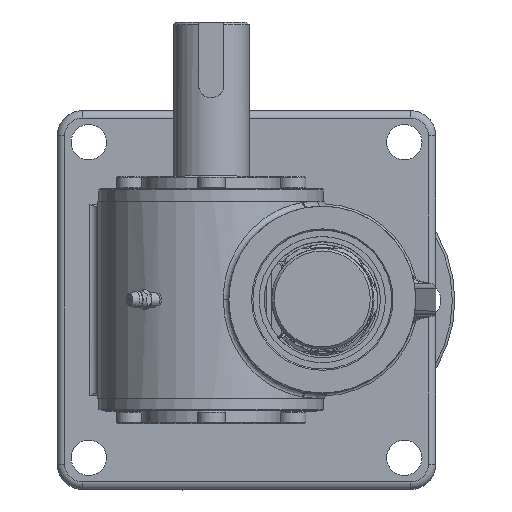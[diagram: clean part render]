
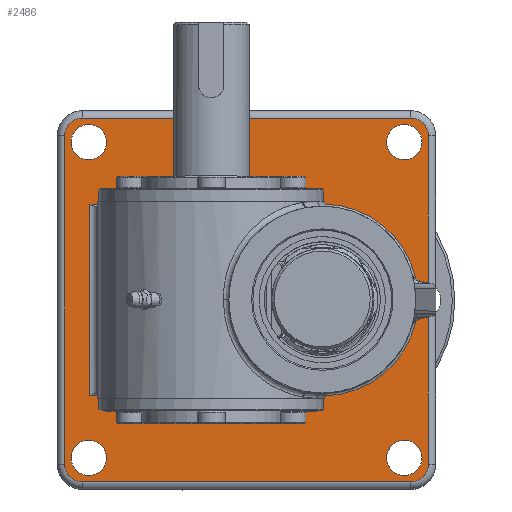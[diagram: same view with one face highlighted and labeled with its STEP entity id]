
A CAD part, top view. The second image highlights one B-rep face of the part: STEP entity #2486.
In plain terms, the highlighted planar face has unit normal (0, 0, 1).
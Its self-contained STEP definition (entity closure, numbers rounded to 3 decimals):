
#2486=ADVANCED_FACE('',(#5967,#5968,#5969,#5970,#5971),#5972,.T.);
#5967=FACE_OUTER_BOUND('',#13662,.T.);
#5968=FACE_BOUND('',#13663,.T.);
#5969=FACE_BOUND('',#13664,.T.);
#5970=FACE_BOUND('',#13665,.T.);
#5971=FACE_BOUND('',#13666,.T.);
#5972=PLANE('',#13667);
#13662=EDGE_LOOP('',(#23565,#23566,#23567,#23568,#23569,#23570,#23571,#23572,#23573,#23574,#23575,#23576,#23577,#23578,#23579,#23580,#23581,#23582,#23583,#23584,#23585,#23586,#23587,#23588));
#13663=EDGE_LOOP('',(#23589));
#13664=EDGE_LOOP('',(#23590));
#13665=EDGE_LOOP('',(#23591));
#13666=EDGE_LOOP('',(#23592));
#13667=AXIS2_PLACEMENT_3D('',#23593,#23594,#23595);
#23565=ORIENTED_EDGE('',*,*,#38837,.T.);
#23566=ORIENTED_EDGE('',*,*,#39019,.F.);
#23567=ORIENTED_EDGE('',*,*,#38614,.T.);
#23568=ORIENTED_EDGE('',*,*,#38619,.T.);
#23569=ORIENTED_EDGE('',*,*,#38812,.F.);
#23570=ORIENTED_EDGE('',*,*,#39045,.F.);
#23571=ORIENTED_EDGE('',*,*,#38682,.T.);
#23572=ORIENTED_EDGE('',*,*,#39033,.T.);
#23573=ORIENTED_EDGE('',*,*,#38202,.T.);
#23574=ORIENTED_EDGE('',*,*,#38958,.T.);
#23575=ORIENTED_EDGE('',*,*,#38308,.T.);
#23576=ORIENTED_EDGE('',*,*,#38126,.T.);
#23577=ORIENTED_EDGE('',*,*,#38788,.T.);
#23578=ORIENTED_EDGE('',*,*,#38953,.T.);
#23579=ORIENTED_EDGE('',*,*,#38321,.T.);
#23580=ORIENTED_EDGE('',*,*,#39129,.F.);
#23581=ORIENTED_EDGE('',*,*,#39065,.F.);
#23582=ORIENTED_EDGE('',*,*,#38178,.T.);
#23583=ORIENTED_EDGE('',*,*,#38177,.T.);
#23584=ORIENTED_EDGE('',*,*,#38286,.F.);
#23585=ORIENTED_EDGE('',*,*,#38281,.T.);
#23586=ORIENTED_EDGE('',*,*,#38975,.F.);
#23587=ORIENTED_EDGE('',*,*,#38338,.T.);
#23588=ORIENTED_EDGE('',*,*,#38335,.F.);
#23589=ORIENTED_EDGE('',*,*,#39089,.F.);
#23590=ORIENTED_EDGE('',*,*,#39130,.F.);
#23591=ORIENTED_EDGE('',*,*,#38381,.F.);
#23592=ORIENTED_EDGE('',*,*,#38319,.F.);
#23593=CARTESIAN_POINT('',(0.0,0.0,20.0));
#23594=DIRECTION('',(0.,0.,1.0));
#23595=DIRECTION('',(1.0,0.,0.));
#38126=EDGE_CURVE('',#45169,#45174,#45176,.T.);
#38177=EDGE_CURVE('',#45264,#45270,#45272,.T.);
#38178=EDGE_CURVE('',#45273,#45264,#45274,.T.);
#38202=EDGE_CURVE('',#45311,#45316,#45318,.T.);
#38281=EDGE_CURVE('',#45468,#45466,#45469,.T.);
#38286=EDGE_CURVE('',#45468,#45270,#45475,.T.);
#38308=EDGE_CURVE('',#45514,#45169,#45518,.T.);
#38319=EDGE_CURVE('',#45537,#45537,#45538,.T.);
#38321=EDGE_CURVE('',#45541,#45542,#45543,.T.);
#38335=EDGE_CURVE('',#45566,#45568,#45569,.T.);
#38338=EDGE_CURVE('',#45573,#45568,#45574,.T.);
#38381=EDGE_CURVE('',#45647,#45647,#45648,.T.);
#38614=EDGE_CURVE('',#46067,#46065,#46068,.T.);
#38619=EDGE_CURVE('',#46065,#46076,#46077,.T.);
#38682=EDGE_CURVE('',#46174,#46172,#46175,.T.);
#38788=EDGE_CURVE('',#45174,#46342,#46344,.T.);
#38812=EDGE_CURVE('',#46377,#46076,#46379,.T.);
#38837=EDGE_CURVE('',#45566,#46414,#46416,.T.);
#38953=EDGE_CURVE('',#46342,#45541,#46572,.T.);
#38958=EDGE_CURVE('',#45316,#45514,#46578,.T.);
#38975=EDGE_CURVE('',#45573,#45466,#46601,.T.);
#39019=EDGE_CURVE('',#46067,#46414,#46657,.T.);
#39033=EDGE_CURVE('',#46172,#45311,#46673,.T.);
#39045=EDGE_CURVE('',#46174,#46377,#46687,.T.);
#39065=EDGE_CURVE('',#45273,#46711,#46712,.T.);
#39089=EDGE_CURVE('',#46742,#46742,#46743,.T.);
#39129=EDGE_CURVE('',#46711,#45542,#46787,.T.);
#39130=EDGE_CURVE('',#46788,#46788,#46789,.T.);
#45169=VERTEX_POINT('',#57577);
#45174=VERTEX_POINT('',#57582);
#45176=CIRCLE('',#57584,7.0);
#45264=VERTEX_POINT('',#57924);
#45270=VERTEX_POINT('',#57953);
#45272=LINE('',#57964,#57965);
#45273=VERTEX_POINT('',#57966);
#45274=CIRCLE('',#57967,38.0);
#45311=VERTEX_POINT('',#58133);
#45316=VERTEX_POINT('',#58139);
#45318=LINE('',#58141,#58142);
#45466=VERTEX_POINT('',#58570);
#45468=VERTEX_POINT('',#58581);
#45469=LINE('',#58582,#58583);
#45475=LINE('',#58603,#58604);
#45514=VERTEX_POINT('',#58647);
#45518=LINE('',#58652,#58653);
#45537=VERTEX_POINT('',#58676);
#45538=CIRCLE('',#58677,7.0);
#45541=VERTEX_POINT('',#58680);
#45542=VERTEX_POINT('',#58681);
#45543=LINE('',#58682,#58683);
#45566=VERTEX_POINT('',#58785);
#45568=VERTEX_POINT('',#58796);
#45569=LINE('',#58797,#58798);
#45573=VERTEX_POINT('',#58812);
#45574=LINE('',#58813,#58814);
#45647=VERTEX_POINT('',#59132);
#45648=CIRCLE('',#59133,7.0);
#46065=VERTEX_POINT('',#59755);
#46067=VERTEX_POINT('',#59766);
#46068=LINE('',#59767,#59768);
#46076=VERTEX_POINT('',#59807);
#46077=CIRCLE('',#59808,38.0);
#46172=VERTEX_POINT('',#59946);
#46174=VERTEX_POINT('',#59948);
#46175=LINE('',#59949,#59950);
#46342=VERTEX_POINT('',#60345);
#46344=LINE('',#60347,#60348);
#46377=VERTEX_POINT('',#60406);
#46379=CIRCLE('',#60409,5.0);
#46414=VERTEX_POINT('',#60552);
#46416=LINE('',#60563,#60564);
#46572=CIRCLE('',#61006,7.0);
#46578=CIRCLE('',#61020,7.0);
#46601=LINE('',#61061,#61062);
#46657=LINE('',#61152,#61153);
#46673=CIRCLE('',#61184,7.0);
#46687=LINE('',#61232,#61233);
#46711=VERTEX_POINT('',#61303);
#46712=CIRCLE('',#61304,5.0);
#46742=VERTEX_POINT('',#61351);
#46743=CIRCLE('',#61352,7.0);
#46787=LINE('',#61459,#61460);
#46788=VERTEX_POINT('',#61461);
#46789=CIRCLE('',#61462,7.0);
#57577=CARTESIAN_POINT('',(-72.0,-65.0,20.0));
#57582=CARTESIAN_POINT('',(-65.,-72.0,20.0));
#57584=AXIS2_PLACEMENT_3D('',#74670,#74671,#74672);
#57924=CARTESIAN_POINT('',(19.466,-36.511,20.0));
#57953=CARTESIAN_POINT('',(19.466,-40.0,20.0));
#57964=CARTESIAN_POINT('',(19.466,0.,20.0));
#57965=VECTOR('',#74734,1.0);
#57966=CARTESIAN_POINT('',(67.08,-8.311,20.0));
#57967=AXIS2_PLACEMENT_3D('',#74735,#74736,#74737);
#58133=CARTESIAN_POINT('',(65.,72.0,20.0));
#58139=CARTESIAN_POINT('',(-65.0,72.0,20.0));
#58141=CARTESIAN_POINT('',(0.0,72.0,20.0));
#58142=VECTOR('',#74769,1.0);
#58570=CARTESIAN_POINT('',(-47.466,-38.0,20.0));
#58581=CARTESIAN_POINT('',(-47.466,-40.0,20.0));
#58582=CARTESIAN_POINT('',(-47.466,38.0,20.0));
#58583=VECTOR('',#74929,1.0);
#58603=CARTESIAN_POINT('',(0.0,-40.0,20.0));
#58604=VECTOR('',#74937,1.0);
#58647=CARTESIAN_POINT('',(-72.0,65.,20.0));
#58652=CARTESIAN_POINT('',(-72.0,0.0,20.0));
#58653=VECTOR('',#74991,1.0);
#58676=CARTESIAN_POINT('',(-55.5,62.5,20.0));
#58677=AXIS2_PLACEMENT_3D('',#75014,#75015,#75016);
#58680=CARTESIAN_POINT('',(72.0,-65.,20.0));
#58681=CARTESIAN_POINT('',(72.0,-6.683,20.0));
#58682=CARTESIAN_POINT('',(72.0,0.,20.0));
#58683=VECTOR('',#75020,1.0);
#58785=CARTESIAN_POINT('',(-47.466,38.0,20.0));
#58796=CARTESIAN_POINT('',(-62.0,38.0,20.0));
#58797=CARTESIAN_POINT('',(-54.733,38.0,20.0));
#58798=VECTOR('',#75030,1.0);
#58812=CARTESIAN_POINT('',(-62.0,-38.0,20.0));
#58813=CARTESIAN_POINT('',(-62.0,0.0,20.0));
#58814=VECTOR('',#75032,1.0);
#59132=CARTESIAN_POINT('',(69.5,62.5,20.0));
#59133=AXIS2_PLACEMENT_3D('',#75082,#75083,#75084);
#59755=CARTESIAN_POINT('',(19.466,36.511,20.0));
#59766=CARTESIAN_POINT('',(19.466,40.0,20.0));
#59767=CARTESIAN_POINT('',(19.466,0.,20.0));
#59768=VECTOR('',#75583,1.0);
#59807=CARTESIAN_POINT('',(67.08,8.311,20.0));
#59808=AXIS2_PLACEMENT_3D('',#75588,#75589,#75590);
#59946=CARTESIAN_POINT('',(72.0,65.0,20.0));
#59948=CARTESIAN_POINT('',(72.0,6.683,20.0));
#59949=CARTESIAN_POINT('',(72.0,0.,20.0));
#59950=VECTOR('',#75723,1.0);
#60345=CARTESIAN_POINT('',(65.0,-72.0,20.0));
#60347=CARTESIAN_POINT('',(0.0,-72.0,20.0));
#60348=VECTOR('',#75902,1.0);
#60406=CARTESIAN_POINT('',(69.053,7.364,20.0));
#60409=AXIS2_PLACEMENT_3D('',#75943,#75944,#75945);
#60552=CARTESIAN_POINT('',(-47.466,40.0,20.0));
#60563=CARTESIAN_POINT('',(-47.466,38.0,20.0));
#60564=VECTOR('',#75994,1.0);
#61006=AXIS2_PLACEMENT_3D('',#76202,#76203,#76204);
#61020=AXIS2_PLACEMENT_3D('',#76214,#76215,#76216);
#61061=CARTESIAN_POINT('',(-54.733,-38.0,20.0));
#61062=VECTOR('',#76245,1.0);
#61152=CARTESIAN_POINT('',(0.0,40.0,20.0));
#61153=VECTOR('',#76333,1.0);
#61184=AXIS2_PLACEMENT_3D('',#76358,#76359,#76360);
#61232=CARTESIAN_POINT('',(70.527,7.024,20.0));
#61233=VECTOR('',#76384,1.0);
#61303=CARTESIAN_POINT('',(69.053,-7.364,20.0));
#61304=AXIS2_PLACEMENT_3D('',#76416,#76417,#76418);
#61351=CARTESIAN_POINT('',(69.5,-62.5,20.0));
#61352=AXIS2_PLACEMENT_3D('',#76473,#76474,#76475);
#61459=CARTESIAN_POINT('',(70.527,-7.024,20.0));
#61460=VECTOR('',#76545,1.0);
#61461=CARTESIAN_POINT('',(-55.5,-62.5,20.0));
#61462=AXIS2_PLACEMENT_3D('',#76546,#76547,#76548);
#74670=CARTESIAN_POINT('',(-65.0,-65.0,20.0));
#74671=DIRECTION('',(0.,0.,1.0));
#74672=DIRECTION('',(1.0,0.,0.));
#74734=DIRECTION('',(0.0,-1.0,0.0));
#74735=CARTESIAN_POINT('',(30.0,0.0,20.0));
#74736=DIRECTION('',(0.,0.,-1.0));
#74737=DIRECTION('',(1.0,0.,0.));
#74769=DIRECTION('',(-1.0,0.0,0.));
#74929=DIRECTION('',(0.0,1.0,0.0));
#74937=DIRECTION('',(1.0,0.0,0.0));
#74991=DIRECTION('',(0.0,-1.0,0.));
#75014=CARTESIAN_POINT('',(-62.5,62.5,20.0));
#75015=DIRECTION('',(0.,0.,1.0));
#75016=DIRECTION('',(1.0,0.,0.));
#75020=DIRECTION('',(0.0,1.0,0.));
#75030=DIRECTION('',(-1.0,0.0,0.0));
#75032=DIRECTION('',(0.0,1.0,0.));
#75082=CARTESIAN_POINT('',(62.5,62.5,20.0));
#75083=DIRECTION('',(0.,0.,1.0));
#75084=DIRECTION('',(1.0,0.,0.));
#75583=DIRECTION('',(0.0,-1.0,0.0));
#75588=CARTESIAN_POINT('',(30.0,0.0,20.0));
#75589=DIRECTION('',(0.,0.,-1.0));
#75590=DIRECTION('',(1.0,0.,0.));
#75723=DIRECTION('',(0.0,1.0,0.));
#75902=DIRECTION('',(1.0,0.0,0.));
#75943=CARTESIAN_POINT('',(70.178,12.236,20.0));
#75944=DIRECTION('',(0.,0.,-1.0));
#75945=DIRECTION('',(1.0,0.,0.));
#75994=DIRECTION('',(0.0,1.0,0.0));
#76202=CARTESIAN_POINT('',(65.0,-65.0,20.0));
#76203=DIRECTION('',(0.,0.,1.0));
#76204=DIRECTION('',(1.0,0.,0.));
#76214=CARTESIAN_POINT('',(-65.0,65.0,20.0));
#76215=DIRECTION('',(0.,0.,1.0));
#76216=DIRECTION('',(1.0,0.,0.));
#76245=DIRECTION('',(1.0,0.0,0.0));
#76333=DIRECTION('',(-1.0,0.0,0.0));
#76358=CARTESIAN_POINT('',(65.0,65.0,20.0));
#76359=DIRECTION('',(0.,0.,1.0));
#76360=DIRECTION('',(1.0,0.,0.));
#76384=DIRECTION('',(-0.974,0.225,0.0));
#76416=CARTESIAN_POINT('',(70.178,-12.236,20.0));
#76417=DIRECTION('',(0.,0.,-1.0));
#76418=DIRECTION('',(1.0,0.,0.));
#76473=CARTESIAN_POINT('',(62.5,-62.5,20.0));
#76474=DIRECTION('',(0.,0.,1.0));
#76475=DIRECTION('',(1.0,0.,0.));
#76545=DIRECTION('',(0.974,0.225,0.0));
#76546=CARTESIAN_POINT('',(-62.5,-62.5,20.0));
#76547=DIRECTION('',(0.,0.,1.0));
#76548=DIRECTION('',(1.0,0.,0.));
